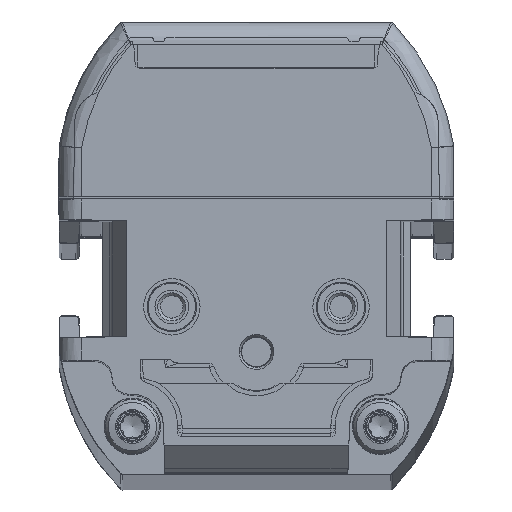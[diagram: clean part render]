
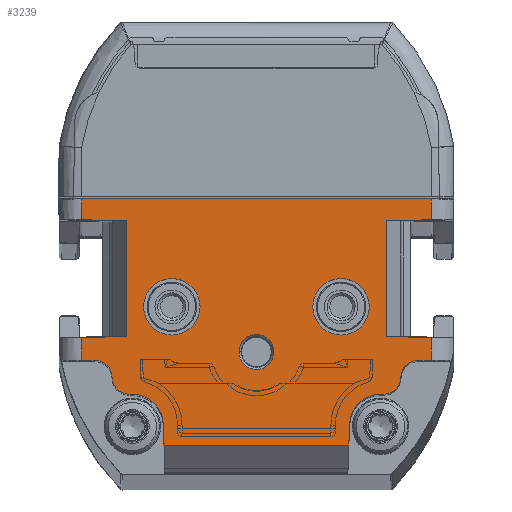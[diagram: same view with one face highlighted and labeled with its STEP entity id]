
A CAD part, top view. The second image highlights one B-rep face of the part: STEP entity #3239.
In plain terms, the highlighted planar face has unit normal (0, 0, 1).
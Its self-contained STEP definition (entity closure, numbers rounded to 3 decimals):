
#1178=FACE_BOUND('',#5343,.T.);
#1179=FACE_BOUND('',#5344,.T.);
#1180=FACE_BOUND('',#5345,.T.);
#1181=FACE_BOUND('',#5346,.T.);
#1900=CIRCLE('',#17502,2.5);
#1901=CIRCLE('',#17504,2.5);
#1902=CIRCLE('',#17506,1.55);
#1905=CIRCLE('',#17576,1.5);
#1906=CIRCLE('',#17577,1.5);
#1907=CIRCLE('',#17578,1.5);
#1908=CIRCLE('',#17579,1.5);
#1909=CIRCLE('',#17580,2.75);
#1910=CIRCLE('',#17581,2.75);
#3239=ADVANCED_FACE('',(#1178,#1179,#1180,#1181),#3754,.T.);
#3754=PLANE('',#17582);
#5343=EDGE_LOOP('',(#9281));
#5344=EDGE_LOOP('',(#9282));
#5345=EDGE_LOOP('',(#9283));
#5346=EDGE_LOOP('',(#9284,#9285,#9286,#9287,#9288,#9289,#9290,#9291,#9292,
#9293,#9294,#9295,#9296,#9297,#9298,#9299,#9300,#9301,#9302,#9303,#9304,
#9305,#9306,#9307,#9308,#9309));
#9281=ORIENTED_EDGE('',*,*,#13579,.T.);
#9282=ORIENTED_EDGE('',*,*,#13578,.F.);
#9283=ORIENTED_EDGE('',*,*,#13577,.F.);
#9284=ORIENTED_EDGE('',*,*,#13699,.F.);
#9285=ORIENTED_EDGE('',*,*,#13700,.T.);
#9286=ORIENTED_EDGE('',*,*,#13701,.T.);
#9287=ORIENTED_EDGE('',*,*,#13702,.T.);
#9288=ORIENTED_EDGE('',*,*,#13630,.T.);
#9289=ORIENTED_EDGE('',*,*,#13576,.T.);
#9290=ORIENTED_EDGE('',*,*,#13573,.T.);
#9291=ORIENTED_EDGE('',*,*,#13572,.T.);
#9292=ORIENTED_EDGE('',*,*,#13698,.T.);
#9293=ORIENTED_EDGE('',*,*,#13703,.F.);
#9294=ORIENTED_EDGE('',*,*,#13704,.F.);
#9295=ORIENTED_EDGE('',*,*,#13705,.F.);
#9296=ORIENTED_EDGE('',*,*,#13692,.T.);
#9297=ORIENTED_EDGE('',*,*,#13568,.F.);
#9298=ORIENTED_EDGE('',*,*,#13564,.T.);
#9299=ORIENTED_EDGE('',*,*,#13563,.F.);
#9300=ORIENTED_EDGE('',*,*,#13603,.T.);
#9301=ORIENTED_EDGE('',*,*,#13706,.F.);
#9302=ORIENTED_EDGE('',*,*,#13707,.T.);
#9303=ORIENTED_EDGE('',*,*,#13708,.T.);
#9304=ORIENTED_EDGE('',*,*,#13709,.F.);
#9305=ORIENTED_EDGE('',*,*,#13710,.F.);
#9306=ORIENTED_EDGE('',*,*,#13711,.F.);
#9307=ORIENTED_EDGE('',*,*,#13611,.T.);
#9308=ORIENTED_EDGE('',*,*,#13712,.F.);
#9309=ORIENTED_EDGE('',*,*,#13713,.F.);
#11499=VERTEX_POINT('',#29891);
#11500=VERTEX_POINT('',#29893);
#11501=VERTEX_POINT('',#29897);
#11502=VERTEX_POINT('',#29901);
#11504=VERTEX_POINT('',#29907);
#11506=VERTEX_POINT('',#29911);
#11507=VERTEX_POINT('',#29915);
#11508=VERTEX_POINT('',#29919);
#11509=VERTEX_POINT('',#29923);
#11510=VERTEX_POINT('',#29926);
#11511=VERTEX_POINT('',#29929);
#11528=VERTEX_POINT('',#30023);
#11533=VERTEX_POINT('',#30037);
#11534=VERTEX_POINT('',#30039);
#11547=VERTEX_POINT('',#30079);
#11581=VERTEX_POINT('',#30332);
#11585=VERTEX_POINT('',#30342);
#11586=VERTEX_POINT('',#30346);
#11587=VERTEX_POINT('',#30347);
#11588=VERTEX_POINT('',#30349);
#11589=VERTEX_POINT('',#30351);
#11590=VERTEX_POINT('',#30354);
#11591=VERTEX_POINT('',#30356);
#11592=VERTEX_POINT('',#30359);
#11593=VERTEX_POINT('',#30361);
#11594=VERTEX_POINT('',#30363);
#11595=VERTEX_POINT('',#30365);
#11596=VERTEX_POINT('',#30367);
#11597=VERTEX_POINT('',#30370);
#13563=EDGE_CURVE('',#11500,#11499,#15088,.T.);
#13564=EDGE_CURVE('',#11501,#11499,#15089,.T.);
#13568=EDGE_CURVE('',#11501,#11502,#15092,.T.);
#13572=EDGE_CURVE('',#11504,#11506,#15095,.T.);
#13573=EDGE_CURVE('',#11507,#11504,#15096,.T.);
#13576=EDGE_CURVE('',#11508,#11507,#15098,.T.);
#13577=EDGE_CURVE('',#11509,#11509,#1900,.T.);
#13578=EDGE_CURVE('',#11510,#11510,#1901,.T.);
#13579=EDGE_CURVE('',#11511,#11511,#1902,.T.);
#13603=EDGE_CURVE('',#11500,#11528,#15113,.T.);
#13611=EDGE_CURVE('',#11533,#11534,#15119,.T.);
#13630=EDGE_CURVE('',#11547,#11508,#15132,.T.);
#13692=EDGE_CURVE('',#11581,#11502,#15175,.T.);
#13698=EDGE_CURVE('',#11506,#11585,#15177,.T.);
#13699=EDGE_CURVE('',#11586,#11587,#15178,.T.);
#13700=EDGE_CURVE('',#11586,#11588,#1905,.T.);
#13701=EDGE_CURVE('',#11588,#11589,#1906,.T.);
#13702=EDGE_CURVE('',#11589,#11547,#15179,.T.);
#13703=EDGE_CURVE('',#11590,#11585,#15180,.T.);
#13704=EDGE_CURVE('',#11591,#11590,#15181,.T.);
#13705=EDGE_CURVE('',#11581,#11591,#15182,.T.);
#13706=EDGE_CURVE('',#11592,#11528,#15183,.T.);
#13707=EDGE_CURVE('',#11592,#11593,#1907,.T.);
#13708=EDGE_CURVE('',#11593,#11594,#1908,.T.);
#13709=EDGE_CURVE('',#11595,#11594,#15184,.T.);
#13710=EDGE_CURVE('',#11596,#11595,#1909,.T.);
#13711=EDGE_CURVE('',#11533,#11596,#15185,.T.);
#13712=EDGE_CURVE('',#11597,#11534,#15186,.T.);
#13713=EDGE_CURVE('',#11587,#11597,#1910,.T.);
#15088=LINE('',#29894,#16251);
#15089=LINE('',#29896,#16252);
#15092=LINE('',#29904,#16255);
#15095=LINE('',#29912,#16258);
#15096=LINE('',#29914,#16259);
#15098=LINE('',#29920,#16261);
#15113=LINE('',#30024,#16276);
#15119=LINE('',#30040,#16282);
#15132=LINE('',#30078,#16295);
#15175=LINE('',#30331,#16338);
#15177=LINE('',#30343,#16340);
#15178=LINE('',#30345,#16341);
#15179=LINE('',#30352,#16342);
#15180=LINE('',#30353,#16343);
#15181=LINE('',#30355,#16344);
#15182=LINE('',#30357,#16345);
#15183=LINE('',#30358,#16346);
#15184=LINE('',#30364,#16347);
#15185=LINE('',#30368,#16348);
#15186=LINE('',#30369,#16349);
#16251=VECTOR('',#20699,1.);
#16252=VECTOR('',#20702,1.);
#16255=VECTOR('',#20709,1.);
#16258=VECTOR('',#20716,1.);
#16259=VECTOR('',#20719,1.);
#16261=VECTOR('',#20725,1.);
#16276=VECTOR('',#20776,1.);
#16282=VECTOR('',#20790,1.);
#16295=VECTOR('',#20829,1.);
#16338=VECTOR('',#20940,1.);
#16340=VECTOR('',#20952,1.);
#16341=VECTOR('',#20955,1.);
#16342=VECTOR('',#20960,1.);
#16343=VECTOR('',#20961,1.);
#16344=VECTOR('',#20962,1.);
#16345=VECTOR('',#20963,1.);
#16346=VECTOR('',#20964,1.);
#16347=VECTOR('',#20969,1.);
#16348=VECTOR('',#20972,1.);
#16349=VECTOR('',#20973,1.);
#17502=AXIS2_PLACEMENT_3D('',#29922,#20728,#20729);
#17504=AXIS2_PLACEMENT_3D('',#29925,#20732,#20733);
#17506=AXIS2_PLACEMENT_3D('',#29928,#20736,#20737);
#17576=AXIS2_PLACEMENT_3D('',#30348,#20956,#20957);
#17577=AXIS2_PLACEMENT_3D('',#30350,#20958,#20959);
#17578=AXIS2_PLACEMENT_3D('',#30360,#20965,#20966);
#17579=AXIS2_PLACEMENT_3D('',#30362,#20967,#20968);
#17580=AXIS2_PLACEMENT_3D('',#30366,#20970,#20971);
#17581=AXIS2_PLACEMENT_3D('',#30371,#20974,#20975);
#17582=AXIS2_PLACEMENT_3D('',#30372,#20976,#20977);
#20699=DIRECTION('',(1.,0.017,0.));
#20702=DIRECTION('',(0.,-1.,0.));
#20709=DIRECTION('',(-1.,0.017,0.));
#20716=DIRECTION('',(1.,0.017,0.));
#20719=DIRECTION('',(0.,1.,0.));
#20725=DIRECTION('',(-1.,0.017,0.));
#20728=DIRECTION('',(0.,0.,1.));
#20729=DIRECTION('',(1.,0.,0.));
#20732=DIRECTION('',(0.,0.,1.));
#20733=DIRECTION('',(1.,0.,0.));
#20736=DIRECTION('',(0.,0.,-1.));
#20737=DIRECTION('',(1.,0.,0.));
#20776=DIRECTION('',(0.,-1.,0.));
#20790=DIRECTION('',(1.,0.,0.));
#20829=DIRECTION('',(0.,1.,0.));
#20940=DIRECTION('',(0.,-1.,0.));
#20952=DIRECTION('',(0.,1.,0.));
#20955=DIRECTION('',(-1.,0.,0.));
#20956=DIRECTION('',(0.,0.,1.));
#20957=DIRECTION('',(1.,0.,0.));
#20958=DIRECTION('',(0.,0.,-1.));
#20959=DIRECTION('',(1.,0.,0.));
#20960=DIRECTION('',(1.,0.,0.));
#20961=DIRECTION('',(1.,-0.017,0.));
#20962=DIRECTION('',(1.,0.,0.));
#20963=DIRECTION('',(1.,0.017,0.));
#20964=DIRECTION('',(-1.,0.,0.));
#20965=DIRECTION('',(0.,0.,-1.));
#20966=DIRECTION('',(1.,0.,0.));
#20967=DIRECTION('',(0.,0.,1.));
#20968=DIRECTION('',(1.,0.,0.));
#20969=DIRECTION('',(-1.,0.,0.));
#20970=DIRECTION('',(0.,0.,1.));
#20971=DIRECTION('',(1.,0.,0.));
#20972=DIRECTION('',(-0.035,0.999,0.));
#20973=DIRECTION('',(-0.035,-0.999,0.));
#20974=DIRECTION('',(0.,0.,1.));
#20975=DIRECTION('',(1.,0.,0.));
#20976=DIRECTION('',(0.,0.,1.));
#20977=DIRECTION('',(1.,0.,0.));
#29891=CARTESIAN_POINT('',(-11.55,12.107,849.));
#29893=CARTESIAN_POINT('',(-15.5,12.038,849.));
#29894=CARTESIAN_POINT('',(-17.709,11.999,849.));
#29896=CARTESIAN_POINT('',(-11.55,0.,849.));
#29897=CARTESIAN_POINT('',(-11.55,22.393,849.));
#29901=CARTESIAN_POINT('',(-15.5,22.462,849.));
#29904=CARTESIAN_POINT('',(-17.107,22.49,849.));
#29907=CARTESIAN_POINT('',(11.55,22.393,849.));
#29911=CARTESIAN_POINT('',(15.5,22.462,849.));
#29912=CARTESIAN_POINT('',(-17.882,21.88,849.));
#29914=CARTESIAN_POINT('',(11.55,0.,849.));
#29915=CARTESIAN_POINT('',(11.55,12.107,849.));
#29919=CARTESIAN_POINT('',(15.5,12.038,849.));
#29920=CARTESIAN_POINT('',(-17.28,12.61,849.));
#29922=CARTESIAN_POINT('',(-7.5,14.75,849.));
#29923=CARTESIAN_POINT('',(-5.,14.75,849.));
#29925=CARTESIAN_POINT('',(7.5,14.75,849.));
#29926=CARTESIAN_POINT('',(10.,14.75,849.));
#29928=CARTESIAN_POINT('',(0.,10.75,849.));
#29929=CARTESIAN_POINT('',(1.55,10.75,849.));
#30023=CARTESIAN_POINT('',(-15.5,10.,849.));
#30024=CARTESIAN_POINT('',(-15.5,0.,849.));
#30037=CARTESIAN_POINT('',(-8.189,2.5,849.));
#30039=CARTESIAN_POINT('',(8.189,2.5,849.));
#30040=CARTESIAN_POINT('',(-17.5,2.5,849.));
#30078=CARTESIAN_POINT('',(15.5,0.,849.));
#30079=CARTESIAN_POINT('',(15.5,10.,849.));
#30331=CARTESIAN_POINT('',(-15.5,0.,849.));
#30332=CARTESIAN_POINT('',(-15.5,24.317,849.));
#30342=CARTESIAN_POINT('',(15.5,24.317,849.));
#30343=CARTESIAN_POINT('',(15.5,0.,849.));
#30345=CARTESIAN_POINT('',(23.25,7.,849.));
#30346=CARTESIAN_POINT('',(11.3,7.,849.));
#30347=CARTESIAN_POINT('',(11.002,7.,849.));
#30348=CARTESIAN_POINT('',(11.3,8.5,849.));
#30349=CARTESIAN_POINT('',(12.8,8.5,849.));
#30350=CARTESIAN_POINT('',(14.3,8.5,849.));
#30351=CARTESIAN_POINT('',(14.3,10.,849.));
#30352=CARTESIAN_POINT('',(-17.5,10.,849.));
#30353=CARTESIAN_POINT('',(-17.066,24.886,849.));
#30354=CARTESIAN_POINT('',(13.025,24.36,849.));
#30355=CARTESIAN_POINT('',(-17.5,24.36,849.));
#30356=CARTESIAN_POINT('',(-13.025,24.36,849.));
#30357=CARTESIAN_POINT('',(-17.924,24.275,849.));
#30358=CARTESIAN_POINT('',(-17.5,10.,849.));
#30359=CARTESIAN_POINT('',(-14.3,10.,849.));
#30360=CARTESIAN_POINT('',(-14.3,8.5,849.));
#30361=CARTESIAN_POINT('',(-12.8,8.5,849.));
#30362=CARTESIAN_POINT('',(-11.3,8.5,849.));
#30363=CARTESIAN_POINT('',(-11.3,7.,849.));
#30364=CARTESIAN_POINT('',(-11.,7.,849.));
#30365=CARTESIAN_POINT('',(-11.002,7.,849.));
#30366=CARTESIAN_POINT('',(-11.002,4.25,849.));
#30367=CARTESIAN_POINT('',(-8.253,4.346,849.));
#30368=CARTESIAN_POINT('',(-8.25,4.25,849.));
#30369=CARTESIAN_POINT('',(8.25,4.25,849.));
#30370=CARTESIAN_POINT('',(8.253,4.346,849.));
#30371=CARTESIAN_POINT('',(11.002,4.25,849.));
#30372=CARTESIAN_POINT('',(-17.5,0.,849.));
